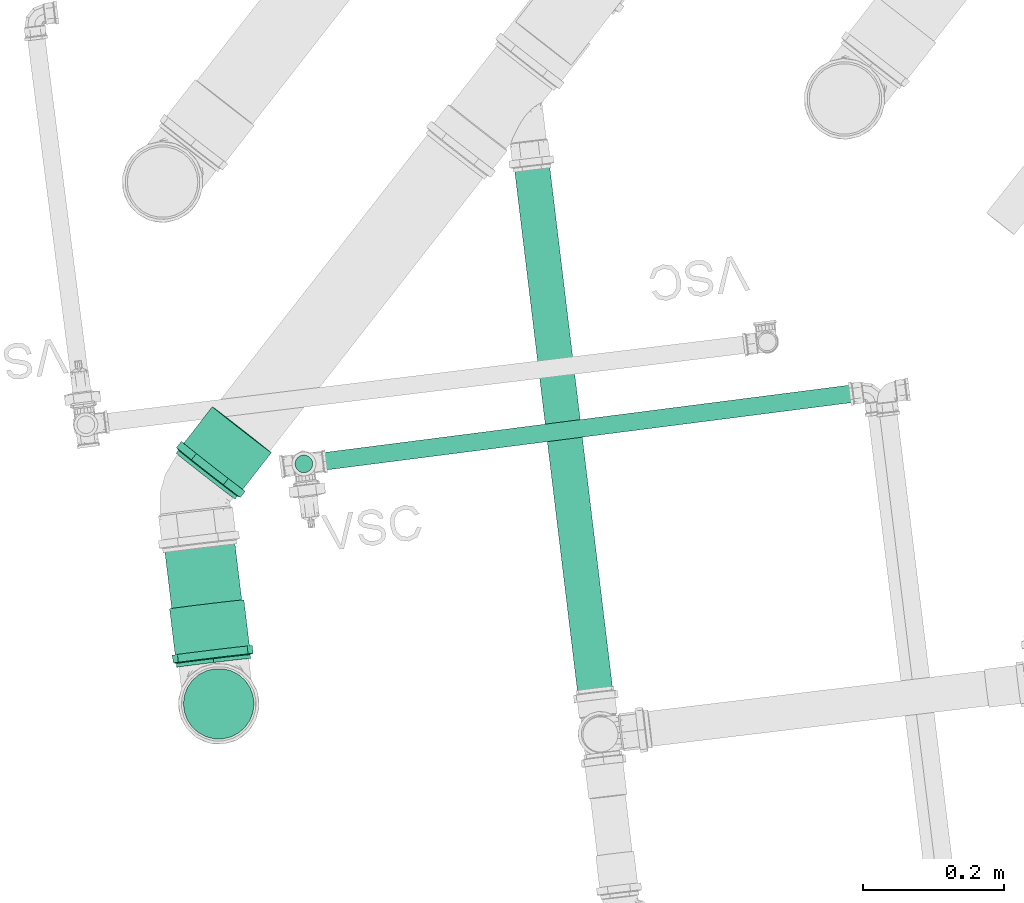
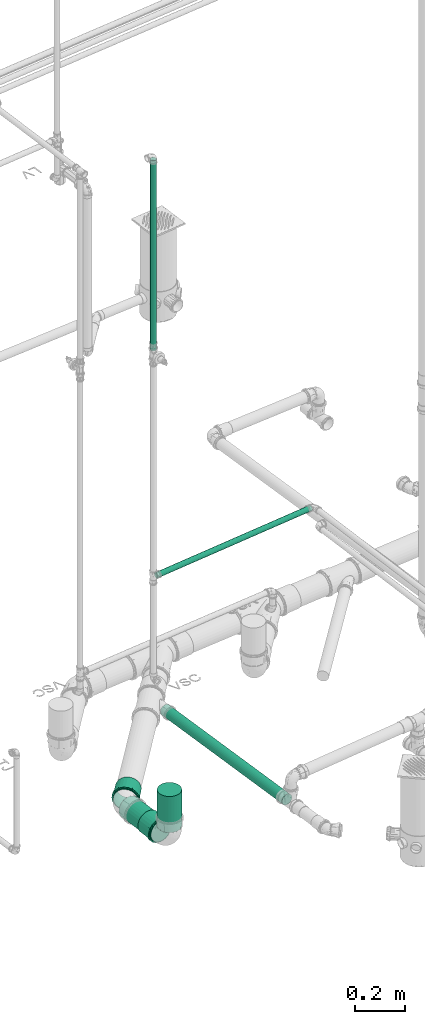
# One storey, part 11 of 97: 5 flow segments, 2 flow fittings.
"""IFC2X3 building model written with IfcOpenShell, lengths in centimetres."""

from ifc_helpers import new_model, entity, si_unit, converted_unit, derived_unit, direction, frame, frame_2d, origin, origin_2d_with_axis, place, context, subcontext, project, spatial, circle, extrude, faceted_brep, source, transform, mapped, material, type_object, type_shapes, element, save


model = new_model("IFC2X3")

# Units and contexts
model_context = context("Model", 3, precision=0.001, world=origin(), true_north=direction((6.12303176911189e-17, 1.0)))
body_context = subcontext(model_context, "Body", "Model", "MODEL_VIEW")
ifc_project = project(units=[si_unit("LENGTHUNIT", "METRE", prefix="CENTI"), si_unit("AREAUNIT", "SQUARE_METRE"), si_unit("VOLUMEUNIT", "CUBIC_METRE"), converted_unit("PLANEANGLEUNIT", "DEGREE", entity("IfcRatioMeasure", 0.0174532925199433), si_unit("PLANEANGLEUNIT", "RADIAN"), dimensions=[0, 0, 0, 0, 0, 0, 0]), si_unit("MASSUNIT", "GRAM", prefix="KILO"), derived_unit("MASSDENSITYUNIT", [(si_unit("MASSUNIT", "GRAM", prefix="KILO"), 1), (si_unit("LENGTHUNIT", "METRE"), -3)]), derived_unit("MOMENTOFINERTIAUNIT", [(si_unit("LENGTHUNIT", "METRE"), 4)]), si_unit("TIMEUNIT", "SECOND"), si_unit("FREQUENCYUNIT", "HERTZ"), si_unit("THERMODYNAMICTEMPERATUREUNIT", "DEGREE_CELSIUS"), derived_unit("THERMALTRANSMITTANCEUNIT", [(si_unit("MASSUNIT", "GRAM", prefix="KILO"), 1), (si_unit("THERMODYNAMICTEMPERATUREUNIT", "KELVIN"), -1), (si_unit("TIMEUNIT", "SECOND"), -3)]), derived_unit("VOLUMETRICFLOWRATEUNIT", [(si_unit("LENGTHUNIT", "METRE"), 3), (si_unit("TIMEUNIT", "SECOND"), -1)]), si_unit("ELECTRICCURRENTUNIT", "AMPERE"), si_unit("ELECTRICVOLTAGEUNIT", "VOLT"), si_unit("POWERUNIT", "WATT"), si_unit("FORCEUNIT", "NEWTON", prefix="KILO"), si_unit("ILLUMINANCEUNIT", "LUX"), si_unit("LUMINOUSFLUXUNIT", "LUMEN"), si_unit("LUMINOUSINTENSITYUNIT", "CANDELA"), derived_unit("USERDEFINED", [(si_unit("MASSUNIT", "GRAM", prefix="KILO"), -1), (si_unit("LENGTHUNIT", "METRE"), -2), (si_unit("TIMEUNIT", "SECOND"), 3), (si_unit("LUMINOUSFLUXUNIT", "LUMEN"), 1)]), derived_unit("LINEARVELOCITYUNIT", [(si_unit("LENGTHUNIT", "METRE"), 1), (si_unit("TIMEUNIT", "SECOND"), -1)]), si_unit("PRESSUREUNIT", "PASCAL"), derived_unit("USERDEFINED", [(si_unit("LENGTHUNIT", "METRE"), -2), (si_unit("MASSUNIT", "GRAM", prefix="KILO"), 1), (si_unit("TIMEUNIT", "SECOND"), -2)]), derived_unit("LINEARFORCEUNIT", [(si_unit("MASSUNIT", "GRAM", prefix="KILO"), 1), (si_unit("LENGTHUNIT", "METRE"), 1), (si_unit("TIMEUNIT", "SECOND"), -2), (si_unit("LENGTHUNIT", "METRE"), -1)]), derived_unit("PLANARFORCEUNIT", [(si_unit("MASSUNIT", "GRAM", prefix="KILO"), 1), (si_unit("LENGTHUNIT", "METRE"), 1), (si_unit("TIMEUNIT", "SECOND"), -2), (si_unit("LENGTHUNIT", "METRE"), -2)])], contexts=[model_context])

# Site, building, storey
site_placement = place(None, origin())
site = spatial("IfcSite", under=ifc_project, at=site_placement, Name="Default", CompositionType="ELEMENT")
building_placement = place(site_placement, origin())
building = spatial("IfcBuilding", under=site, at=building_placement, Name="HIDROSSANITÁRIO", CompositionType="ELEMENT")
storey_placement = place(building_placement, frame((0.0, 0.0, -260.0)))
storey = spatial("IfcBuildingStorey", under=building, at=storey_placement, Name="TÉRREO-HID", CompositionType="ELEMENT", Elevation=-260.0)

# Flow segments
pipe_segment_type_1 = type_object("IfcPipeSegmentType", Name="Tipos de tubos:Tubo Marrom - Água Fria - Soldável", PredefinedType="NOTDEFINED")
flow_segment_1_placement = place(storey_placement, origin())
element("IfcFlowSegment", 1, at=flow_segment_1_placement, inside=storey, type_object=pipe_segment_type_1, Name="Tipos de tubos:Tubo Marrom - Água Fria - Soldável", ObjectType="Tipos de tubos:Tubo Marrom - Água Fria - Soldável", context=body_context, shape_type="SweptSolid", body=[
    extrude(circle(Radius=1.25, at=origin_2d_with_axis()), frame((-1768.33138926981, 2878.40504359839, 182.0)), (0.0, 0.0, 1.0), 93.8490188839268),
])
flow_segment_2_placement = place(storey_placement, origin())
element("IfcFlowSegment", 2, at=flow_segment_2_placement, inside=storey, type_object=pipe_segment_type_1, Name="Tipos de tubos:Tubo Marrom - Água Fria - Soldável", ObjectType="Tipos de tubos:Tubo Marrom - Água Fria - Soldável", context=body_context, shape_type="SweptSolid", body=[
    extrude(circle(Radius=1.25, at=origin_2d_with_axis()), frame((-1766.89186275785, 2878.57900744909, 70.0), z_axis=(0.99187902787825, 0.127184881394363, 0.0), x_axis=(-0.127184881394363, 0.99187902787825, 0.0)), (0.0, 0.0, 1.0), 78.317738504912),
])
pipe_segment_type_2 = type_object("IfcPipeSegmentType", Name="Tipos de tubos:Tubo - Esgoto - Série Normal", PredefinedType="NOTDEFINED")
flow_segment_3_placement = place(storey_placement, origin())
element("IfcFlowSegment", 3, at=flow_segment_3_placement, inside=storey, type_object=pipe_segment_type_2, Name="Tipos de tubos:Tubo - Esgoto - Série Normal", ObjectType="Tipos de tubos:Tubo - Esgoto - Série Normal", context=body_context, shape_type="SweptSolid", body=[
    extrude(circle(Radius=5.0, at=frame_2d((6.09680974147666e-18, 4.33142089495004e-13), x_axis=(1.0, 0.0))), frame((-1780.39801766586, 2844.40965568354, -27.7833481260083), z_axis=(-0.000112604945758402, 8.79249165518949e-05, 0.999999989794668), x_axis=(0.999999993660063, 0.0, 0.000112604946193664)), (0.0, 0.0, 1.0), 17.7826339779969),
])
flow_segment_4_placement = place(storey_placement, origin())
element("IfcFlowSegment", 4, at=flow_segment_4_placement, inside=storey, type_object=pipe_segment_type_2, Name="Tipos de tubos:Tubo - Esgoto - Série Normal", ObjectType="Tipos de tubos:Tubo - Esgoto - Série Normal", context=body_context, shape_type="SweptSolid", body=[
    extrude(circle(Radius=5.0, at=frame_2d((5.18514892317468e-14, -4.3003211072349e-15), x_axis=(1.0, 0.0))), frame((-1781.09783338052, 2850.21538555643, -33.6900856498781), z_axis=(-0.119702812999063, 0.992759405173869, -0.00999999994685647), x_axis=(0.992809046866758, 0.119708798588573, 0.0)), (0.0, 0.0, 1.0), 21.5378986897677),
])
flow_segment_5_placement = place(storey_placement, origin())
element("IfcFlowSegment", 5, at=flow_segment_5_placement, inside=storey, type_object=pipe_segment_type_2, Name="Tipos de tubos:Tubo - Esgoto - Série Normal", ObjectType="Tipos de tubos:Tubo - Esgoto - Série Normal", context=body_context, shape_type="SweptSolid", body=[
    extrude(circle(Radius=2.5, at=frame_2d((2.15016056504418e-13, -5.36141164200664e-14), x_axis=(1.0, 0.0))), frame((-1726.64067962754, 2842.7388320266, -32.742025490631), z_axis=(-0.119684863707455, 0.992610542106, -0.0199961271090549), x_axis=(0.992809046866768, 0.119708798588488, 0.0)), (0.0, 0.0, 1.0), 81.8901384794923),
])

# Flow fittings
ifc_material = material(Name="PVC Branco")
pipe_fitting_type = type_object("IfcPipeFittingType", Name="Luva Simples para Conexão - Serie Normal - Esgoto - MEP - Tigre:Standard", PredefinedType="NOTDEFINED", material=ifc_material)
shared_shape = source(origin(), body_context, "Body", "Brep", [
    faceted_brep([(1.77700000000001, 2.8725, -4.9753159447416), (1.77700000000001, 4.06232845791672, -4.06232845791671), (1.77700000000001, 2.65249999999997, -4.59426476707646), (1.77700000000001, 1.37303503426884, -5.12423650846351), (1.77700000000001, 1.48691541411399, -5.5492438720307), (1.77700000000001, 3.75120147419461, -3.75120147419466), (1.77700000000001, 4.9753159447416, -2.8725), (1.77700000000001, 4.59426476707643, -2.65250000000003), (1.77700000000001, 5.1242365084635, -1.37303503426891), (1.77700000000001, 5.5492438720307, -1.48691541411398), (1.77700000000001, 5.305, 0.0), (1.77700000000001, 5.745, 0.0), (1.77700000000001, 5.1242365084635, 1.3730350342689), (1.77700000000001, 5.54924387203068, 1.48691541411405), (1.77700000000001, 4.59426476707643, 2.65250000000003), (1.77700000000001, 4.97531594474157, 2.87250000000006), (1.77700000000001, 3.75120147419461, 3.75120147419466), (1.77700000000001, 4.06232845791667, 4.06232845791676), (1.77700000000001, 2.65249999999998, 4.59426476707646), (1.77700000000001, 2.87249999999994, 4.97531594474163), (1.77700000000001, 1.37303503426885, 5.12423650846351), (1.77700000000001, 1.48691541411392, 5.54924387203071), (1.77700000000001, 0.0, 5.305), (1.77700000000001, 0.0, 5.745), (1.77700000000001, -1.37303503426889, 5.1242365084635), (1.77700000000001, -1.48691541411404, 5.54924387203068), (1.77700000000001, -2.65250000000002, 4.59426476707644), (1.77700000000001, -2.87250000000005, 4.97531594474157), (1.77700000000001, -3.75120147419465, 3.75120147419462), (1.77700000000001, -4.06232845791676, 4.06232845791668), (1.77700000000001, -4.59426476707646, 2.65249999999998), (1.77700000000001, -4.97531594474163, 2.87249999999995), (1.77700000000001, -5.54924387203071, 1.48691541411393), (1.77700000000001, -5.12423650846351, 1.37303503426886), (1.77700000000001, -5.745, 0.0), (1.77700000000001, -5.305, 0.0), (1.77700000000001, -5.54924387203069, -1.486915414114), (1.77700000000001, -5.12423650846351, -1.37303503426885), (1.77700000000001, -4.97531594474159, -2.87250000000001), (1.77700000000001, -4.59426476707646, -2.65249999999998), (1.77700000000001, -4.06232845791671, -4.06232845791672), (1.77700000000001, -3.75120147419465, -3.75120147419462), (1.77700000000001, -2.87249999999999, -4.97531594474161), (1.77700000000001, -2.65250000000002, -4.59426476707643), (1.77700000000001, -1.48691541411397, -5.5492438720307), (1.77700000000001, -1.3730350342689, -5.1242365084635), (1.77700000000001, 0.0, -5.745), (1.77700000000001, 0.0, -5.305), (0.657000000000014, -1.93463887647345, 5.31665771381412), (0.657000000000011, -4.4007619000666, 3.69300957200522), (0.657000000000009, -4.89962626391, 2.82901737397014), (0.657000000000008, -5.39849062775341, 1.96502517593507), (0.657000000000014, -2.87216972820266, 4.97550661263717), (0.657000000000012, -3.63646581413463, 4.3342580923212), (0.657000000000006, -5.5717453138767, 0.982512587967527), (0.657000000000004, -5.745, 0.0), (0.657000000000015, -0.997108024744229, 5.65780881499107), (0.657000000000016, 0.998234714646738, 5.65761013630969), (0.657000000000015, 0.0005633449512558, 5.65770947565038), (0.657000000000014, 3.63732887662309, 4.33353383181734), (0.657000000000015, 1.93569761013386, 5.31627233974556), (0.657000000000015, 2.87316050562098, 4.97493454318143), (0.65700000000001, 5.39888184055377, 1.96395006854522), (0.657000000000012, 4.90018954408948, 2.82804159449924), (0.657000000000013, 4.40149724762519, 3.69213312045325), (0.657000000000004, 5.745, 0.0), (0.656999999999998, 4.40149724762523, -3.6921331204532), (0.657, 4.90018954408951, -2.82804159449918), (0.657000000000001, 5.39888184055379, -1.96395006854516), (0.656999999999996, 2.87316050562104, -4.9749345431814), (0.656999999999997, 3.63732887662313, -4.3335338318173), (0.656999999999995, 1.93569761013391, -5.31627233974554), (0.656999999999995, 0.998234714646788, -5.65761013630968), (0.656999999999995, -0.997108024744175, -5.65780881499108), (0.656999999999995, 0.000563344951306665, -5.65770947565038), (0.656999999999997, -3.6364658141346, -4.33425809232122), (0.656999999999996, -2.87216972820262, -4.9755066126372), (0.656999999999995, -1.9346388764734, -5.31665771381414), (0.657000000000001, -5.39849062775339, -1.96502517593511), (0.657, -4.89962626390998, -2.82901737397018), (0.656999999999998, -4.40076190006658, -3.69300957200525), (0.657000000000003, -5.5717453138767, -0.982512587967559), (8.35200000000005, 2.6525, -4.59426476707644), (8.35200000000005, 3.75120147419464, -3.75120147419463), (8.35200000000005, 2.49999999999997, -4.33012701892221), (8.35200000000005, 1.29409522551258, -4.82962913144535), (8.35200000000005, 1.37303503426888, -5.1242365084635), (8.35200000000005, 3.53553390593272, -3.53553390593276), (8.35200000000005, 4.59426476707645, -2.6525), (8.35200000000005, 4.33012701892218, -2.50000000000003), (8.35200000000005, 4.82962913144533, -1.29409522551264), (8.35200000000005, 5.12423650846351, -1.37303503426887), (8.35200000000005, 5.0, 0.0), (8.35200000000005, 5.305, 0.0), (8.35200000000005, 4.82962913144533, 1.29409522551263), (8.35200000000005, 5.12423650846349, 1.37303503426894), (8.35200000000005, 4.33012701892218, 2.50000000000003), (8.35200000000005, 4.59426476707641, 2.65250000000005), (8.35200000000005, 3.53553390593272, 3.53553390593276), (8.35200000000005, 3.75120147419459, 3.75120147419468), (8.35200000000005, 2.49999999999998, 4.33012701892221), (8.35200000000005, 2.65249999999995, 4.59426476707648), (8.35200000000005, 1.29409522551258, 4.82962913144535), (8.35200000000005, 1.37303503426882, 5.12423650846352), (8.35200000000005, 0.0, 5.0), (8.35200000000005, 0.0, 5.305), (8.35200000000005, -1.29409522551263, 4.82962913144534), (8.35200000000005, -1.37303503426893, 5.12423650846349), (8.35200000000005, -2.50000000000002, 4.33012701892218), (8.35200000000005, -2.65250000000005, 4.59426476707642), (8.35200000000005, -3.53553390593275, 3.53553390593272), (8.35200000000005, -3.75120147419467, 3.7512014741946), (8.35200000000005, -4.3301270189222, 2.49999999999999), (8.35200000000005, -4.59426476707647, 2.65249999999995), (8.35200000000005, -5.12423650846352, 1.37303503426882), (8.35200000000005, -4.82962913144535, 1.29409522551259), (8.35200000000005, -5.305, 0.0), (8.35200000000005, -5.0, 0.0), (8.35200000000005, -5.1242365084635, -1.37303503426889), (8.35200000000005, -4.82962913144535, -1.29409522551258), (8.35200000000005, -4.59426476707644, -2.65250000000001), (8.35200000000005, -4.3301270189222, -2.49999999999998), (8.35200000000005, -3.75120147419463, -3.75120147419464), (8.35200000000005, -3.53553390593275, -3.53553390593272), (8.35200000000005, -2.65249999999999, -4.59426476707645), (8.35200000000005, -2.50000000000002, -4.33012701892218), (8.35200000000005, -1.37303503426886, -5.12423650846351), (8.35200000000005, -1.29409522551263, -4.82962913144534), (8.35200000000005, 0.0, -5.305), (8.35200000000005, 0.0, -5.0), (0.0, 2.49999999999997, -4.33012701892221), (0.0, 3.75120147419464, -3.75120147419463), (0.0, 2.6525, -4.59426476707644), (0.0, 1.29409522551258, -4.82962913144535), (0.0, 3.53553390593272, -3.53553390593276), (0.0, 4.59426476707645, -2.6525), (0.0, 4.33012701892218, -2.50000000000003), (0.0, 4.82962913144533, -1.29409522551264), (0.0, 5.12423650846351, -1.37303503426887), (0.0, 5.0, 0.0), (0.0, 5.305, 0.0), (0.0, 4.82962913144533, 1.29409522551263), (0.0, 5.12423650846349, 1.37303503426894), (0.0, 4.33012701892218, 2.50000000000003), (0.0, 4.59426476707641, 2.65250000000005), (0.0, 3.53553390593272, 3.53553390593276), (0.0, 3.75120147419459, 3.75120147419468), (0.0, 2.49999999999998, 4.33012701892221), (0.0, 2.65249999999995, 4.59426476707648), (0.0, 1.29409522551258, 4.82962913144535), (0.0, 1.37303503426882, 5.12423650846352), (0.0, 0.0, 5.0), (0.0, 0.0, 5.305), (0.0, -1.29409522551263, 4.82962913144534), (0.0, -1.37303503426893, 5.12423650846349), (0.0, -2.50000000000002, 4.33012701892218), (0.0, -2.65250000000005, 4.59426476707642), (0.0, -3.53553390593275, 3.53553390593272), (0.0, -3.75120147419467, 3.7512014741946), (0.0, -4.3301270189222, 2.49999999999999), (0.0, -4.59426476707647, 2.65249999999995), (0.0, -5.12423650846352, 1.37303503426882), (0.0, -4.82962913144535, 1.29409522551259), (0.0, -5.305, 0.0), (0.0, -5.0, 0.0), (0.0, -5.1242365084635, -1.37303503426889), (0.0, -4.82962913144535, -1.29409522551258), (0.0, -4.59426476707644, -2.65250000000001), (0.0, -4.3301270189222, -2.49999999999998), (0.0, -3.75120147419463, -3.75120147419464), (0.0, -3.53553390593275, -3.53553390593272), (0.0, -2.65249999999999, -4.59426476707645), (0.0, -2.50000000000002, -4.33012701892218), (0.0, -1.37303503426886, -5.12423650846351), (0.0, -1.29409522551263, -4.82962913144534), (0.0, 0.0, -5.305), (0.0, 0.0, -5.0), (0.0, 1.37303503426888, -5.1242365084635), (0.537000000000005, -5.305, 0.0), (0.537000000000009, -4.98507989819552, 1.81438788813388), (0.537000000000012, -4.06390540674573, 3.4099410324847), (0.537000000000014, -2.65258010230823, 4.59421851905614), (0.537000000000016, -0.921325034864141, 5.22438371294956), (0.537000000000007, 5.1449924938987, 0.907324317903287), (0.537000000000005, 5.305, 0.0), (0.537000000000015, 2.65233979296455, 4.59435725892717), (0.537000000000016, 0.921051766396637, 5.22443189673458), (0.537000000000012, 4.06372704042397, 3.41015359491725), (0.537000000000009, 4.9849849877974, 1.81464863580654), (0.537000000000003, 5.14499249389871, -0.907324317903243), (0.537000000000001, 4.98498498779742, -1.81464863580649), (0.536999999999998, 4.063727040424, -3.41015359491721), (0.536999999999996, 2.6523397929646, -4.59435725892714), (0.536999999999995, 0.921051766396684, -5.22443189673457), (0.536999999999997, -2.6525801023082, -4.59421851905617), (0.536999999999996, -0.921325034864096, -5.22438371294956), (0.536999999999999, -4.0639054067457, -3.40994103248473), (0.537000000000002, -4.98507989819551, -1.81438788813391), (5.0, -5.0, 0.0), (5.0, 5.0, 0.0)], [[[0, 1, 2]], [[0, 2, 3]], [[3, 4, 0]], [[2, 1, 5]], [[6, 5, 1]], [[5, 6, 7]], [[7, 6, 8]], [[9, 8, 6]], [[9, 10, 8]], [[10, 9, 11]], [[12, 10, 11]], [[11, 13, 12]], [[12, 13, 14]], [[15, 14, 13]], [[14, 15, 16]], [[16, 15, 17]], [[18, 16, 17]], [[17, 19, 18]], [[18, 19, 20]], [[21, 20, 19]], [[20, 21, 22]], [[22, 21, 23]], [[22, 23, 24]], [[24, 23, 25]], [[24, 25, 26]], [[27, 26, 25]], [[27, 28, 26]], [[28, 27, 29]], [[29, 30, 28]], [[31, 30, 29]], [[30, 31, 32]], [[32, 33, 30]], [[34, 33, 32]], [[34, 35, 33]], [[36, 35, 34]], [[36, 37, 35]], [[37, 36, 38]], [[38, 39, 37]], [[39, 38, 40]], [[39, 40, 41]], [[40, 42, 41]], [[41, 42, 43]], [[43, 42, 44]], [[44, 45, 43]], [[46, 45, 44]], [[4, 47, 46]], [[46, 47, 45]], [[4, 3, 47]], [[48, 27, 25]], [[31, 29, 49]], [[31, 49, 50, 51]], [[52, 53, 27]], [[32, 51, 54]], [[54, 55, 34]], [[54, 34, 32]], [[25, 56, 48]], [[49, 29, 53]], [[23, 57, 58, 56]], [[59, 19, 17]], [[27, 53, 29]], [[48, 52, 27]], [[31, 51, 32]], [[57, 23, 21]], [[60, 19, 61]], [[15, 62, 63, 64]], [[19, 60, 21]], [[15, 13, 62]], [[17, 64, 59]], [[57, 21, 60]], [[23, 56, 25]], [[15, 64, 17]], [[13, 65, 62]], [[13, 11, 65]], [[59, 61, 19]], [[65, 11, 9]], [[6, 1, 66]], [[6, 66, 67, 68]], [[69, 70, 0]], [[68, 65, 9]], [[71, 69, 0]], [[71, 0, 4]], [[4, 72, 71]], [[66, 1, 70]], [[46, 73, 74, 72]], [[75, 76, 42]], [[0, 70, 1]], [[75, 42, 40]], [[6, 68, 9]], [[73, 46, 44]], [[77, 42, 76]], [[38, 78, 79, 80]], [[42, 77, 44]], [[38, 36, 78]], [[40, 80, 75]], [[73, 44, 77]], [[46, 72, 4]], [[38, 80, 40]], [[81, 78, 36]], [[55, 81, 34]], [[34, 81, 36]], [[82, 83, 84]], [[82, 84, 85]], [[85, 86, 82]], [[84, 83, 87]], [[88, 87, 83]], [[87, 88, 89]], [[89, 88, 90]], [[91, 90, 88]], [[91, 92, 90]], [[92, 91, 93]], [[94, 92, 93]], [[93, 95, 94]], [[94, 95, 96]], [[97, 96, 95]], [[96, 97, 98]], [[98, 97, 99]], [[100, 98, 99]], [[99, 101, 100]], [[100, 101, 102]], [[103, 102, 101]], [[102, 103, 104]], [[104, 103, 105]], [[104, 105, 106]], [[106, 105, 107]], [[106, 107, 108]], [[109, 108, 107]], [[110, 108, 109]], [[110, 109, 111]], [[111, 112, 110]], [[113, 112, 111]], [[112, 113, 114]], [[114, 115, 112]], [[116, 115, 114]], [[116, 117, 115]], [[118, 117, 116]], [[118, 119, 117]], [[119, 118, 120]], [[120, 121, 119]], [[121, 120, 122]], [[121, 122, 123]], [[122, 124, 123]], [[125, 123, 124]], [[125, 124, 126]], [[126, 127, 125]], [[128, 127, 126]], [[86, 129, 128]], [[128, 129, 127]], [[86, 85, 129]], [[130, 131, 132]], [[133, 130, 132]], [[134, 131, 130]], [[131, 134, 135]], [[136, 135, 134]], [[137, 135, 136]], [[135, 137, 138]], [[137, 139, 138]], [[140, 138, 139]], [[140, 139, 141]], [[141, 142, 140]], [[143, 142, 141]], [[142, 143, 144]], [[145, 144, 143]], [[146, 144, 145]], [[146, 145, 147]], [[147, 148, 146]], [[149, 148, 147]], [[148, 149, 150]], [[151, 150, 149]], [[152, 150, 151]], [[153, 152, 151]], [[154, 152, 153]], [[155, 154, 153]], [[154, 155, 156]], [[156, 155, 157]], [[158, 156, 157]], [[157, 159, 158]], [[158, 159, 160]], [[161, 160, 159]], [[159, 162, 161]], [[161, 162, 163]], [[162, 164, 163]], [[163, 164, 165]], [[164, 166, 165]], [[167, 165, 166]], [[166, 168, 167]], [[169, 167, 168]], [[170, 169, 168]], [[170, 171, 169]], [[171, 170, 172]], [[173, 171, 172]], [[172, 174, 173]], [[173, 174, 175]], [[174, 176, 175]], [[176, 133, 177]], [[175, 176, 177]], [[132, 177, 133]], [[161, 178, 179]], [[158, 180, 181]], [[179, 180, 160]], [[181, 182, 154]], [[179, 160, 161]], [[161, 163, 178]], [[35, 116, 114, 33]], [[183, 184, 140]], [[181, 156, 158]], [[158, 160, 180]], [[181, 154, 156]], [[182, 152, 154]], [[183, 140, 142]], [[185, 150, 186]], [[187, 146, 185]], [[142, 188, 183]], [[187, 188, 144]], [[185, 148, 150]], [[150, 152, 186]], [[187, 144, 146]], [[146, 148, 185]], [[188, 142, 144]], [[186, 152, 182]], [[189, 190, 138]], [[131, 191, 192]], [[190, 191, 135]], [[192, 193, 177]], [[190, 135, 138]], [[184, 189, 140]], [[192, 132, 131]], [[131, 135, 191]], [[192, 177, 132]], [[193, 175, 177]], [[140, 189, 138]], [[194, 173, 195]], [[196, 169, 194]], [[165, 197, 178]], [[196, 197, 167]], [[165, 178, 163]], [[35, 37, 118, 116]], [[194, 171, 173]], [[173, 175, 195]], [[196, 167, 169]], [[169, 171, 194]], [[197, 165, 167]], [[195, 175, 193]], [[115, 117, 198, 164, 162]], [[155, 108, 110, 157]], [[110, 112, 159, 157]], [[112, 115, 162, 159]], [[106, 108, 155, 153]], [[153, 151, 104, 106]], [[102, 104, 151, 149]], [[102, 149, 147, 100]], [[141, 94, 96, 143]], [[96, 98, 145, 143]], [[98, 100, 147, 145]], [[92, 94, 141, 139, 199]], [[199, 139, 137, 90, 92]], [[87, 89, 136, 134]], [[134, 130, 84, 87]], [[89, 90, 137, 136]], [[85, 84, 130, 133]], [[133, 176, 129, 85]], [[127, 129, 176, 174]], [[127, 174, 172, 125]], [[166, 119, 121, 168]], [[121, 123, 170, 168]], [[123, 125, 172, 170]], [[117, 119, 166, 164, 198]], [[81, 178, 197]], [[190, 68, 67]], [[194, 75, 196]], [[193, 72, 74]], [[195, 77, 194]], [[79, 197, 196]], [[81, 55, 178]], [[192, 69, 71]], [[79, 78, 197]], [[194, 77, 76]], [[191, 66, 70]], [[80, 196, 75]], [[68, 190, 189]], [[74, 195, 193]], [[192, 71, 193]], [[190, 67, 191]], [[70, 192, 191]], [[65, 189, 184]], [[195, 73, 77]], [[193, 71, 72]], [[197, 78, 81]], [[191, 67, 66]], [[189, 65, 68]], [[196, 80, 79]], [[70, 69, 192]], [[194, 76, 75]], [[73, 195, 74]], [[65, 183, 62]], [[48, 56, 182]], [[58, 182, 56]], [[54, 51, 179]], [[59, 185, 61]], [[60, 186, 57]], [[53, 52, 181]], [[63, 187, 64]], [[58, 57, 186]], [[187, 63, 188]], [[186, 60, 185]], [[50, 49, 180]], [[185, 59, 187]], [[59, 64, 187]], [[182, 58, 186]], [[50, 179, 51]], [[54, 178, 55]], [[53, 180, 49]], [[63, 62, 188]], [[181, 48, 182]], [[183, 65, 184]], [[179, 50, 180]], [[178, 54, 179]], [[183, 188, 62]], [[180, 53, 181]], [[60, 61, 185]], [[48, 181, 52]], [[30, 33, 114, 113]], [[26, 28, 111, 109]], [[113, 111, 28, 30]], [[107, 24, 26, 109]], [[107, 105, 22, 24]], [[18, 20, 103, 101]], [[99, 16, 18, 101]], [[12, 14, 97, 95]], [[99, 97, 14, 16]], [[10, 12, 95, 93]], [[103, 20, 22, 105]], [[91, 8, 10, 93]], [[88, 7, 8, 91]], [[82, 86, 3, 2]], [[83, 5, 7, 88]], [[2, 5, 83, 82]], [[86, 128, 47, 3]], [[43, 45, 126, 124]], [[122, 41, 43, 124]], [[37, 39, 120, 118]], [[122, 120, 39, 41]], [[126, 45, 47, 128]]]),
])
type_shapes(pipe_fitting_type, [shared_shape])
for number, where, z_axis, x_axis, name in (
    (6, (-1781.09783338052, 2850.21538555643, -33.6900856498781), (0.992809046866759, 0.119708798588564, 0.0), (-0.119702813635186, 0.992759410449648, -0.00999946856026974), "Luva Simples para Conexão - Serie Normal - Esgoto - MEP - Tigre:Standard"),
    (7, (-1782.2646109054, 2876.66800870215, -33.9013877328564), (-0.027254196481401, 0.0067822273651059, 0.999605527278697), (0.615396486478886, 0.788134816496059, 0.0114313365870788), "Luva Simples para Conexão - Serie Normal - Esgoto - MEP - Tigre:Standard"),
):
    element("IfcFlowFitting", number, at=place(storey_placement, frame(where, z_axis=z_axis, x_axis=x_axis)), inside=storey, type_object=pipe_fitting_type, material=ifc_material, Name=name, ObjectType="Luva Simples para Conexão - Serie Normal - Esgoto - MEP - Tigre:Standard", context=body_context, shape_type="MappedRepresentation", body=[
        mapped(shared_shape, transform((0.0, 0.0, 0.0), scale=1.0)),
    ])

save(model, "model.ifc")
